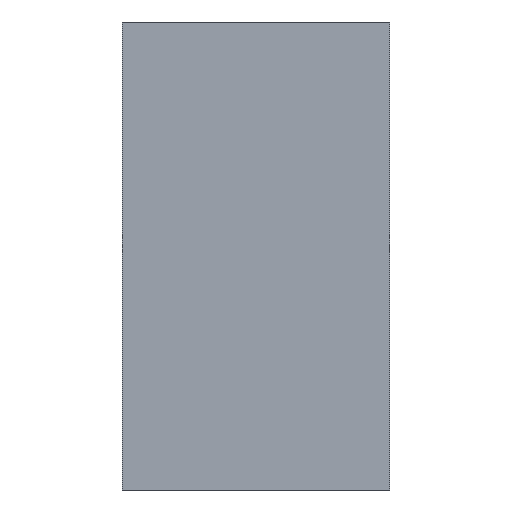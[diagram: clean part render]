
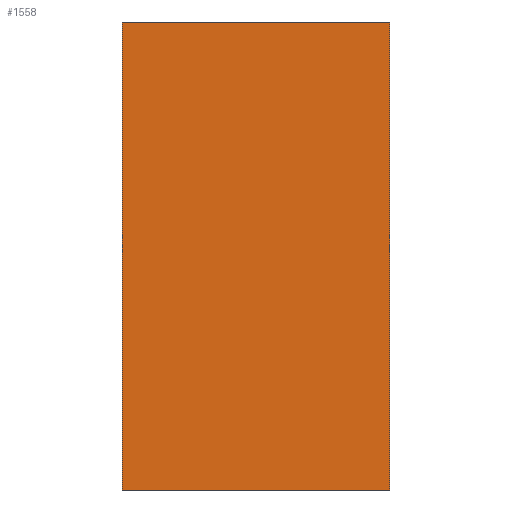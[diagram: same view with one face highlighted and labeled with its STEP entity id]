
A CAD part, front view. The second image highlights one B-rep face of the part: STEP entity #1558.
In plain terms, the highlighted planar face has unit normal (0, -1, 0).
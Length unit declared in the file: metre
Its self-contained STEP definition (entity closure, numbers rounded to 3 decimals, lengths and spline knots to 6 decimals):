
#255=ORIENTED_EDGE('',*,*,#669,.T.);
#256=ORIENTED_EDGE('',*,*,#708,.F.);
#257=ORIENTED_EDGE('',*,*,#645,.F.);
#258=ORIENTED_EDGE('',*,*,#709,.T.);
#645=EDGE_CURVE('',#878,#879,#1026,.T.);
#669=EDGE_CURVE('',#901,#902,#1037,.T.);
#708=EDGE_CURVE('',#879,#902,#1061,.T.);
#709=EDGE_CURVE('',#878,#901,#1062,.T.);
#878=VERTEX_POINT('',#2402);
#879=VERTEX_POINT('',#2404);
#901=VERTEX_POINT('',#2451);
#902=VERTEX_POINT('',#2452);
#1026=LINE('',#2403,#1166);
#1037=LINE('',#2450,#1177);
#1061=LINE('',#2525,#1201);
#1062=LINE('',#2527,#1202);
#1166=VECTOR('',#1875,1.);
#1177=VECTOR('',#1914,1.);
#1201=VECTOR('',#1976,1.);
#1202=VECTOR('',#1979,1.);
#1305=EDGE_LOOP('',(#255,#256,#257,#258));
#1413=FACE_BOUND('',#1305,.T.);
#1516=PLANE('',#1696);
#1558=ADVANCED_FACE('',(#1413),#1516,.F.);
#1696=AXIS2_PLACEMENT_3D('',#2526,#1977,#1978);
#1875=DIRECTION('',(0.,0.,-1.));
#1914=DIRECTION('',(0.,0.,-1.));
#1976=DIRECTION('',(-1.,0.,0.));
#1977=DIRECTION('',(0.,1.,0.));
#1978=DIRECTION('',(1.,0.,0.));
#1979=DIRECTION('',(-1.,0.,0.));
#2402=CARTESIAN_POINT('',(0.06,0.,0.175));
#2403=CARTESIAN_POINT('',(0.06,0.,0.));
#2404=CARTESIAN_POINT('',(0.06,0.,-0.035));
#2450=CARTESIAN_POINT('',(-0.06,0.,0.));
#2451=CARTESIAN_POINT('',(-0.06,0.,0.175));
#2452=CARTESIAN_POINT('',(-0.06,0.,-0.035));
#2525=CARTESIAN_POINT('',(0.,0.,-0.035));
#2526=CARTESIAN_POINT('',(0.,0.,0.));
#2527=CARTESIAN_POINT('',(0.,0.,0.175));
